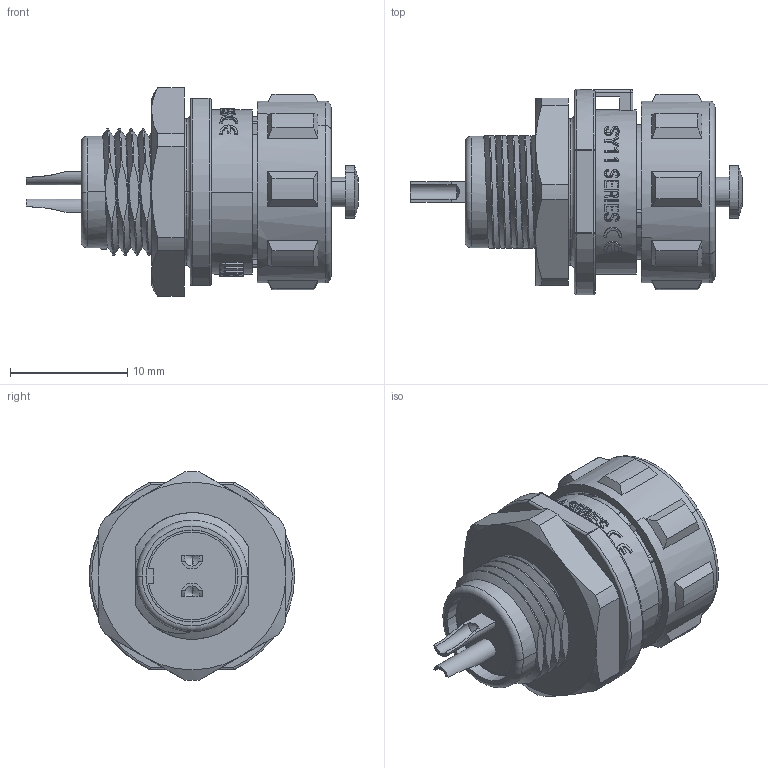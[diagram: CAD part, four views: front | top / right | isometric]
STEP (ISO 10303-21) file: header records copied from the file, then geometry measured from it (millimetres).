
FILE_DESCRIPTION((''),'2;1');
FILE_NAME('SY1112-S2C','2021-03-20T',('Administrator'),(''),'CREO PARAMETRIC BY PTC INC, 2016130','CREO PARAMETRIC BY PTC INC, 2016130','');
FILE_SCHEMA(('AUTOMOTIVE_DESIGN { 1 0 10303 214 1 1 1 1 }'));
Length unit declared in the file: millimetre
Products named in the file (1): SY1112-S2C
Bounding box: 28.3 x 17.5 x 17.8 mm (x, y, z)
Volume: 2822 mm3; surface area: 3181.7 mm2
Topology: 1 solids, 2 shells, 599 faces, 1618 edges, 1053 vertices
Faces by surface type: plane 226, bspline 164, cylinder 130, cone 53, torus 14, sphere 12
Entity records: 27980 total; most frequent: CARTESIAN_POINT 14120, ORIENTED_EDGE 3204, DIRECTION 2338, EDGE_CURVE 1602, VERTEX_POINT 1053, AXIS2_PLACEMENT_3D 837, VECTOR 664, LINE 664
